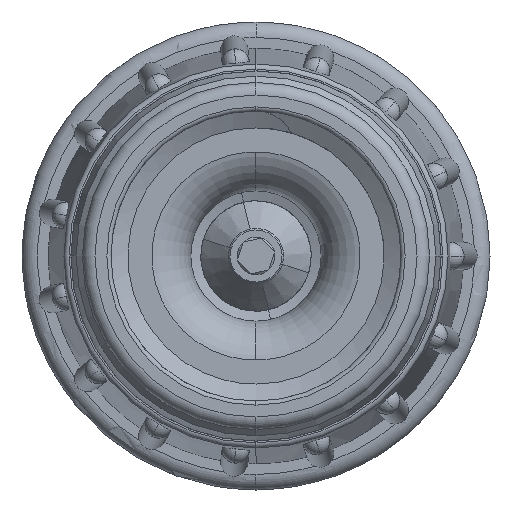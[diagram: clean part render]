
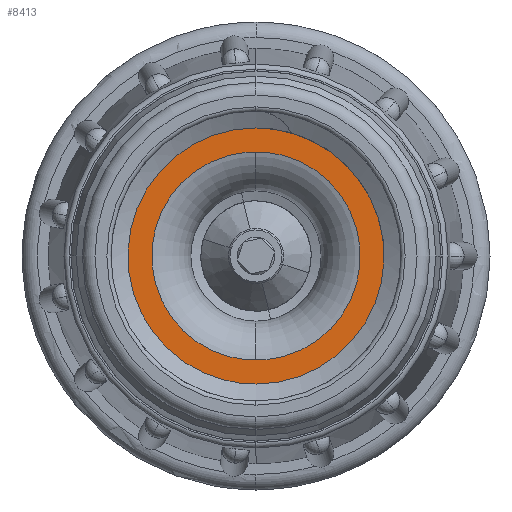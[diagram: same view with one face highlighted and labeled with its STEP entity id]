
A CAD part, left-side view. The second image highlights one B-rep face of the part: STEP entity #8413.
In plain terms, the highlighted planar face has unit normal (-1, 0, 0).
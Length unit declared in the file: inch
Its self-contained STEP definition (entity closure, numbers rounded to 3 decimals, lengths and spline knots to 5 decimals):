
#1343 = AXIS2_PLACEMENT_3D ( 'NONE', #7284, #7294, #7295 ) ;
#1445 = FACE_OUTER_BOUND ( 'NONE', #15006, .T. ) ;
#1448 = FACE_BOUND ( 'NONE', #15005, .T. ) ;
#1925 = CIRCLE ( 'NONE', #14455, 0.5 ) ;
#1927 = CIRCLE ( 'NONE', #14457, 0.71875 ) ;
#1931 = CIRCLE ( 'NONE', #14458, 0.71875 ) ;
#1933 = CIRCLE ( 'NONE', #14459, 0.5 ) ;
#2432 = CARTESIAN_POINT ( 'NONE',  ( 0.47, 0.05654, -0.71652 ) ) ;
#2436 = CARTESIAN_POINT ( 'NONE',  ( 0.47, -0.05654, 0.71652 ) ) ;
#2438 = CARTESIAN_POINT ( 'NONE',  ( 0.47, -0.03933, 0.49845 ) ) ;
#2443 = CARTESIAN_POINT ( 'NONE',  ( 0.47, 0.03933, -0.49845 ) ) ;
#4023 = CARTESIAN_POINT ( 'NONE',  ( 0.47, 0., 0. ) ) ;
#4024 = DIRECTION ( 'NONE',  ( -1., 0., 0. ) ) ;
#4025 = DIRECTION ( 'NONE',  ( 0., -0.079, 0.997 ) ) ;
#4029 = CARTESIAN_POINT ( 'NONE',  ( 0.47, 0., 0. ) ) ;
#4030 = DIRECTION ( 'NONE',  ( -1., 0., 0. ) ) ;
#4031 = DIRECTION ( 'NONE',  ( 0., -0.079, 0.997 ) ) ;
#4032 = CARTESIAN_POINT ( 'NONE',  ( 0.47, 0., 0. ) ) ;
#4033 = DIRECTION ( 'NONE',  ( -1., 0., 0. ) ) ;
#4034 = DIRECTION ( 'NONE',  ( 0., -0.079, 0.997 ) ) ;
#4037 = CARTESIAN_POINT ( 'NONE',  ( 0.47, 0., 0. ) ) ;
#4038 = DIRECTION ( 'NONE',  ( -1., 0., 0. ) ) ;
#4039 = DIRECTION ( 'NONE',  ( 0., -0.079, 0.997 ) ) ;
#5648 = VERTEX_POINT ( 'NONE', #2432 ) ;
#5652 = VERTEX_POINT ( 'NONE', #2436 ) ;
#5654 = VERTEX_POINT ( 'NONE', #2438 ) ;
#5659 = VERTEX_POINT ( 'NONE', #2443 ) ;
#7284 = CARTESIAN_POINT ( 'NONE',  ( 0.47, 0., 0. ) ) ;
#7292 = PLANE ( 'NONE',  #1343 ) ;
#7294 = DIRECTION ( 'NONE',  ( -1., 0., 0. ) ) ;
#7295 = DIRECTION ( 'NONE',  ( 0., -0.079, 0.997 ) ) ;
#8413 = ADVANCED_FACE ( 'NONE', ( #1445, #1448 ), #7292, .T. ) ;
#9594 = EDGE_CURVE ( 'NONE', #5659, #5654, #1925, .T. ) ;
#9597 = EDGE_CURVE ( 'NONE', #5652, #5648, #1927, .T. ) ;
#9598 = EDGE_CURVE ( 'NONE', #5648, #5652, #1931, .T. ) ;
#9599 = EDGE_CURVE ( 'NONE', #5654, #5659, #1933, .T. ) ;
#10122 = ORIENTED_EDGE ( 'NONE', *, *, #9597, .T. ) ;
#10123 = ORIENTED_EDGE ( 'NONE', *, *, #9598, .T. ) ;
#10124 = ORIENTED_EDGE ( 'NONE', *, *, #9594, .F. ) ;
#10125 = ORIENTED_EDGE ( 'NONE', *, *, #9599, .F. ) ;
#14455 = AXIS2_PLACEMENT_3D ( 'NONE', #4023, #4024, #4025 ) ;
#14457 = AXIS2_PLACEMENT_3D ( 'NONE', #4029, #4030, #4031 ) ;
#14458 = AXIS2_PLACEMENT_3D ( 'NONE', #4032, #4033, #4034 ) ;
#14459 = AXIS2_PLACEMENT_3D ( 'NONE', #4037, #4038, #4039 ) ;
#15005 = EDGE_LOOP ( 'NONE', ( #10124, #10125 ) ) ;
#15006 = EDGE_LOOP ( 'NONE', ( #10122, #10123 ) ) ;
